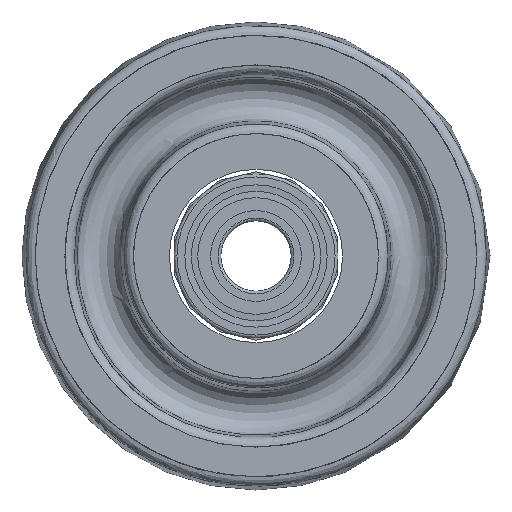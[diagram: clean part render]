
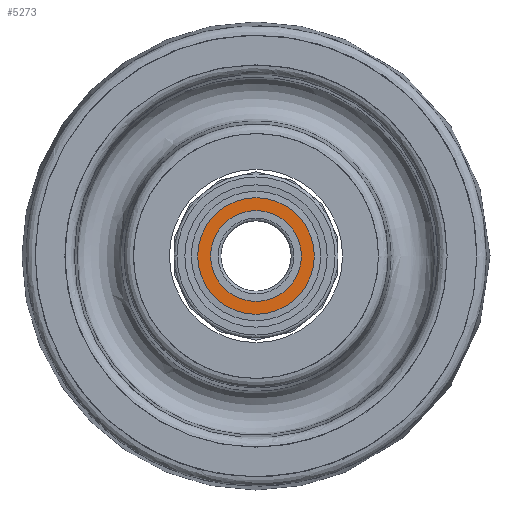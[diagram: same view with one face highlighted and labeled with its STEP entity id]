
A CAD part, left-side view. The second image highlights one B-rep face of the part: STEP entity #5273.
In plain terms, the highlighted planar face has unit normal (-1, 0, 0).
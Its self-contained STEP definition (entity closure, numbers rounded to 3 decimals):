
#4465=CARTESIAN_POINT('',(0.593,9.7,0.0));
#4466=VERTEX_POINT('',#4465);
#4492=CARTESIAN_POINT('',(0.593,-9.7,0.0));
#4493=VERTEX_POINT('',#4492);
#4494=CARTESIAN_POINT('',(0.593,0.0,0.0));
#4495=DIRECTION('',(1.0,0.0,0.0));
#4496=DIRECTION('',(0.0,1.0,0.0));
#4497=AXIS2_PLACEMENT_3D('',#4494,#4495,#4496);
#4498=CIRCLE('',#4497,9.7);
#4499=EDGE_CURVE('',#4493,#4466,#4498,.T.);
#4501=CARTESIAN_POINT('',(0.593,0.0,0.0));
#4502=DIRECTION('',(1.0,0.0,0.0));
#4503=DIRECTION('',(0.0,1.0,0.0));
#4504=AXIS2_PLACEMENT_3D('',#4501,#4502,#4503);
#4505=CIRCLE('',#4504,9.7);
#4506=EDGE_CURVE('',#4466,#4493,#4505,.T.);
#5230=CARTESIAN_POINT('',(0.593,12.45,0.0));
#5231=VERTEX_POINT('',#5230);
#5238=CARTESIAN_POINT('',(0.593,-12.45,0.0));
#5239=VERTEX_POINT('',#5238);
#5240=CARTESIAN_POINT('',(0.593,0.0,0.0));
#5241=DIRECTION('',(1.0,0.0,0.0));
#5242=DIRECTION('',(0.0,1.0,0.0));
#5243=AXIS2_PLACEMENT_3D('',#5240,#5241,#5242);
#5244=CIRCLE('',#5243,12.45);
#5245=EDGE_CURVE('',#5231,#5239,#5244,.T.);
#5247=CARTESIAN_POINT('',(0.593,0.0,0.0));
#5248=DIRECTION('',(1.0,0.0,0.0));
#5249=DIRECTION('',(0.0,1.0,0.0));
#5250=AXIS2_PLACEMENT_3D('',#5247,#5248,#5249);
#5251=CIRCLE('',#5250,12.45);
#5252=EDGE_CURVE('',#5239,#5231,#5251,.T.);
#5260=CARTESIAN_POINT('',(0.593,24.9,-24.9));
#5261=DIRECTION('',(1.0,0.0,0.0));
#5262=DIRECTION('',(0.0,0.0,1.0));
#5263=AXIS2_PLACEMENT_3D('',#5260,#5261,#5262);
#5264=PLANE('',#5263);
#5265=ORIENTED_EDGE('',*,*,#5252,.F.);
#5266=ORIENTED_EDGE('',*,*,#5245,.F.);
#5267=EDGE_LOOP('',(#5265,#5266));
#5268=FACE_OUTER_BOUND('',#5267,.T.);
#5269=ORIENTED_EDGE('',*,*,#4506,.T.);
#5270=ORIENTED_EDGE('',*,*,#4499,.T.);
#5271=EDGE_LOOP('',(#5269,#5270));
#5272=FACE_BOUND('',#5271,.T.);
#5273=ADVANCED_FACE('',(#5268,#5272),#5264,.F.);
